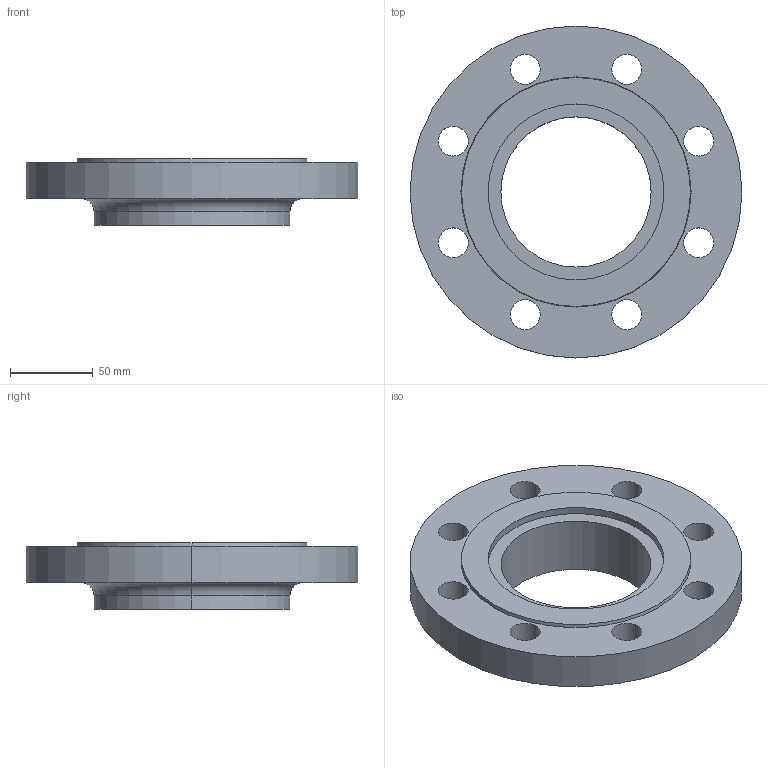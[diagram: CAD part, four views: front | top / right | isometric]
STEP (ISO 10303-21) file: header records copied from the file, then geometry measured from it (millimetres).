
FILE_DESCRIPTION (( 'STEP AP214' ), '1' );
FILE_NAME ('PN40 DN80 Type 12 - Type G Face.STEP', '2019-01-01T19:39:29', ( '' ), ( '' ), 'SwSTEP 2.0', 'SolidWorks 2019', '' );
FILE_SCHEMA (( 'AUTOMOTIVE_DESIGN' ));
Length unit declared in the file: millimetre
Products named in the file (1): PN40 DN80 Type 12 - Type G Face
Bounding box: 200 x 200 x 40 mm (x, y, z)
Volume: 588582.2 mm3; surface area: 86678.7 mm2
Topology: 1 solids, 1 shells, 33 faces, 82 edges, 54 vertices
Faces by surface type: cylinder 24, plane 5, torus 2, cone 2
Entity records: 1086 total; most frequent: DIRECTION 206, CARTESIAN_POINT 170, ORIENTED_EDGE 164, AXIS2_PLACEMENT_3D 90, EDGE_CURVE 82, CIRCLE 56, VERTEX_POINT 54, EDGE_LOOP 54
